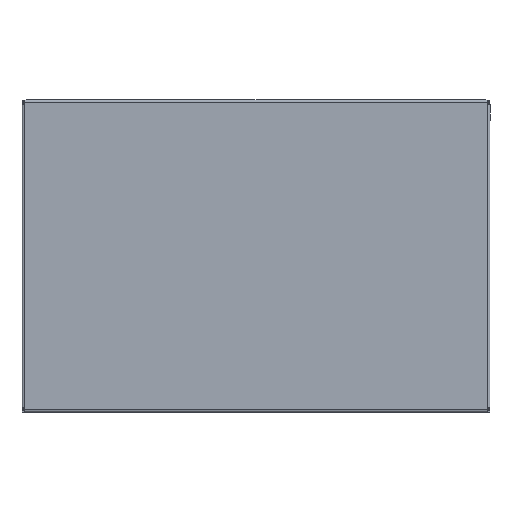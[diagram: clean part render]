
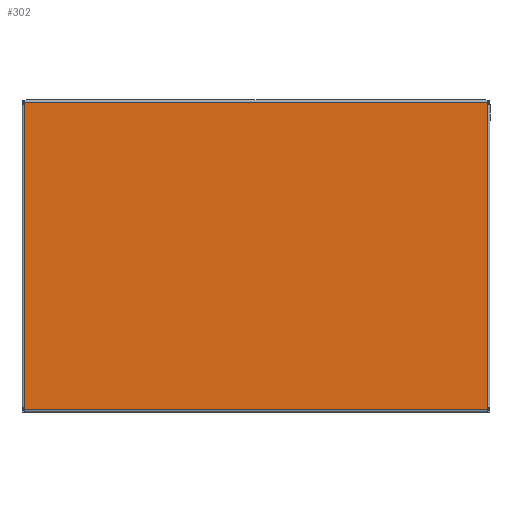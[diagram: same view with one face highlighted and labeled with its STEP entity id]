
A CAD part, front view. The second image highlights one B-rep face of the part: STEP entity #302.
In plain terms, the highlighted planar face has unit normal (0, -1, 0) as drawn and (0, 0, -1) by its records, which use the part's own axes.
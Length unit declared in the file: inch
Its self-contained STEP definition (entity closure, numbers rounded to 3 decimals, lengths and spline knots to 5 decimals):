
#231=CARTESIAN_POINT('',(-4.0,-6.,0.0));
#232=DIRECTION('',(0.0,0.0,1.0));
#233=DIRECTION('',(1.0,0.0,0.0));
#234=AXIS2_PLACEMENT_3D('',#231,#232,#233);
#235=PLANE('',#234);
#236=CARTESIAN_POINT('',(3.946,5.946,0.0));
#237=VERTEX_POINT('',#236);
#238=CARTESIAN_POINT('',(3.946,-5.946,0.0));
#239=VERTEX_POINT('',#238);
#240=CARTESIAN_POINT('',(3.946,5.946,0.0));
#241=DIRECTION('',(0.0,-1.0,0.0));
#242=VECTOR('',#241,11.892);
#243=LINE('',#240,#242);
#244=EDGE_CURVE('',#237,#239,#243,.T.);
#245=ORIENTED_EDGE('',*,*,#244,.T.);
#246=CARTESIAN_POINT('',(3.892,-5.946,0.0));
#247=VERTEX_POINT('',#246);
#248=CARTESIAN_POINT('',(3.946,-5.946,0.0));
#249=DIRECTION('',(-1.0,0.0,0.0));
#250=VECTOR('',#249,0.054);
#251=LINE('',#248,#250);
#252=EDGE_CURVE('',#239,#247,#251,.T.);
#253=ORIENTED_EDGE('',*,*,#252,.T.);
#254=CARTESIAN_POINT('',(-3.892,-5.946,0.0));
#255=VERTEX_POINT('',#254);
#256=CARTESIAN_POINT('',(3.892,-5.946,0.0));
#257=DIRECTION('',(-1.0,0.0,0.0));
#258=VECTOR('',#257,7.784);
#259=LINE('',#256,#258);
#260=EDGE_CURVE('',#247,#255,#259,.T.);
#261=ORIENTED_EDGE('',*,*,#260,.T.);
#262=CARTESIAN_POINT('',(-3.946,-5.946,0.0));
#263=VERTEX_POINT('',#262);
#264=CARTESIAN_POINT('',(-3.892,-5.946,0.0));
#265=DIRECTION('',(-1.0,0.0,0.0));
#266=VECTOR('',#265,0.054);
#267=LINE('',#264,#266);
#268=EDGE_CURVE('',#255,#263,#267,.T.);
#269=ORIENTED_EDGE('',*,*,#268,.T.);
#270=CARTESIAN_POINT('',(-3.946,5.946,0.0));
#271=VERTEX_POINT('',#270);
#272=CARTESIAN_POINT('',(-3.946,-5.946,0.0));
#273=DIRECTION('',(0.0,1.0,0.0));
#274=VECTOR('',#273,11.892);
#275=LINE('',#272,#274);
#276=EDGE_CURVE('',#263,#271,#275,.T.);
#277=ORIENTED_EDGE('',*,*,#276,.T.);
#278=CARTESIAN_POINT('',(-3.892,5.946,0.0));
#279=VERTEX_POINT('',#278);
#280=CARTESIAN_POINT('',(-3.946,5.946,0.0));
#281=DIRECTION('',(1.0,0.0,0.0));
#282=VECTOR('',#281,0.054);
#283=LINE('',#280,#282);
#284=EDGE_CURVE('',#271,#279,#283,.T.);
#285=ORIENTED_EDGE('',*,*,#284,.T.);
#286=CARTESIAN_POINT('',(3.892,5.946,0.0));
#287=VERTEX_POINT('',#286);
#288=CARTESIAN_POINT('',(-3.892,5.946,0.0));
#289=DIRECTION('',(1.0,0.0,0.0));
#290=VECTOR('',#289,7.784);
#291=LINE('',#288,#290);
#292=EDGE_CURVE('',#279,#287,#291,.T.);
#293=ORIENTED_EDGE('',*,*,#292,.T.);
#294=CARTESIAN_POINT('',(3.892,5.946,0.0));
#295=DIRECTION('',(1.0,0.0,0.0));
#296=VECTOR('',#295,0.054);
#297=LINE('',#294,#296);
#298=EDGE_CURVE('',#287,#237,#297,.T.);
#299=ORIENTED_EDGE('',*,*,#298,.T.);
#300=EDGE_LOOP('',(#245,#253,#261,#269,#277,#285,#293,#299));
#301=FACE_OUTER_BOUND('',#300,.T.);
#302=ADVANCED_FACE('',(#301),#235,.F.);
